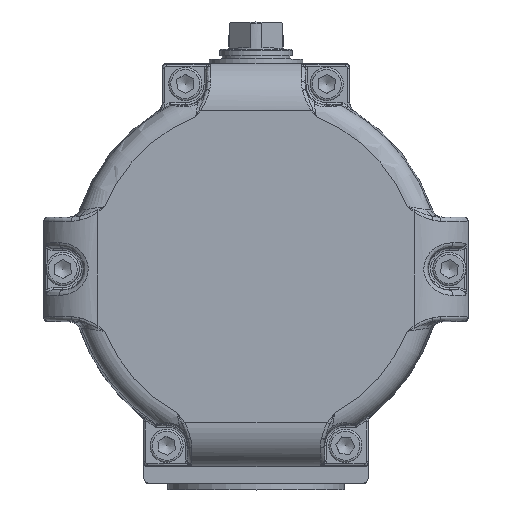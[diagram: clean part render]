
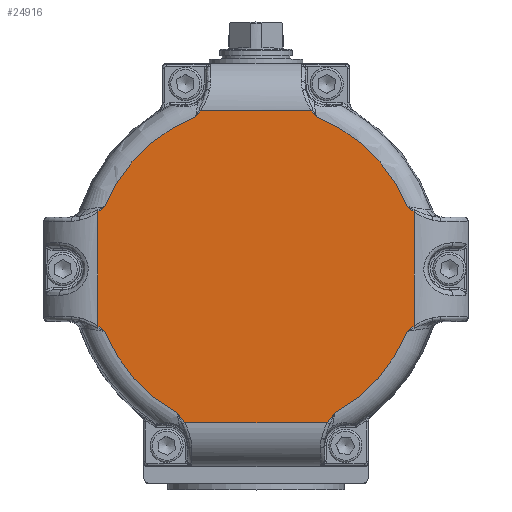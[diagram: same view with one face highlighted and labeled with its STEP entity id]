
A CAD part, top view. The second image highlights one B-rep face of the part: STEP entity #24916.
In plain terms, the highlighted planar face has unit normal (0, 0, 1).
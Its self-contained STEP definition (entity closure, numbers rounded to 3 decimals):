
#1398=B_SPLINE_CURVE_WITH_KNOTS('',3,(#44060,#44061,#44062,#44063,#44064,
#44065),.UNSPECIFIED.,.F.,.F.,(4,2,4),(0.,0.615,0.617),
 .UNSPECIFIED.);
#1399=B_SPLINE_CURVE_WITH_KNOTS('',3,(#44067,#44068,#44069,#44070,#44071,
#44072),.UNSPECIFIED.,.F.,.F.,(4,2,4),(-0.002,0.,0.615),
 .UNSPECIFIED.);
#1400=B_SPLINE_CURVE_WITH_KNOTS('',3,(#44075,#44076,#44077,#44078,#44079,
#44080),.UNSPECIFIED.,.F.,.F.,(4,2,4),(0.,0.403,0.405),
 .UNSPECIFIED.);
#1401=B_SPLINE_CURVE_WITH_KNOTS('',3,(#44081,#44082,#44083,#44084,#44085,
#44086),.UNSPECIFIED.,.F.,.F.,(4,2,4),(-0.002,0.,0.403),
 .UNSPECIFIED.);
#1402=B_SPLINE_CURVE_WITH_KNOTS('',3,(#44087,#44088,#44089,#44090,#44091,
#44092),.UNSPECIFIED.,.F.,.F.,(4,2,4),(0.,0.353,0.355),
 .UNSPECIFIED.);
#1403=B_SPLINE_CURVE_WITH_KNOTS('',3,(#44093,#44094,#44095,#44096,#44097,
#44098),.UNSPECIFIED.,.F.,.F.,(4,2,4),(-0.002,0.,0.353),
 .UNSPECIFIED.);
#1404=B_SPLINE_CURVE_WITH_KNOTS('',3,(#44101,#44102,#44103,#44104,#44105,
#44106),.UNSPECIFIED.,.F.,.F.,(4,2,4),(0.,0.403,0.405),
 .UNSPECIFIED.);
#1405=B_SPLINE_CURVE_WITH_KNOTS('',3,(#44107,#44108,#44109,#44110,#44111,
#44112),.UNSPECIFIED.,.F.,.F.,(4,2,4),(-0.002,0.,0.403),
 .UNSPECIFIED.);
#2459=LINE('',#36159,#3333);
#2468=LINE('',#37110,#3342);
#2475=LINE('',#37751,#3349);
#2482=LINE('',#38437,#3356);
#3333=VECTOR('',#28802,10.);
#3342=VECTOR('',#28919,10.);
#3349=VECTOR('',#28992,10.);
#3356=VECTOR('',#29067,10.);
#4938=FACE_OUTER_BOUND('',#6460,.T.);
#6460=EDGE_LOOP('',(#16881,#16882,#16883,#16884,#16885,#16886,#16887,#16888,
#16889,#16890,#16891,#16892,#16893,#16894,#16895,#16896));
#7752=CIRCLE('',#26201,78.776);
#7792=CIRCLE('',#26255,78.776);
#8013=CIRCLE('',#26637,78.776);
#8014=CIRCLE('',#26638,78.776);
#9181=VERTEX_POINT('',#36152);
#9182=VERTEX_POINT('',#36158);
#9193=VERTEX_POINT('',#36255);
#9217=VERTEX_POINT('',#36666);
#9218=VERTEX_POINT('',#36672);
#9243=VERTEX_POINT('',#37102);
#9244=VERTEX_POINT('',#37109);
#9255=VERTEX_POINT('',#37213);
#9279=VERTEX_POINT('',#37618);
#9280=VERTEX_POINT('',#37623);
#9284=VERTEX_POINT('',#37743);
#9286=VERTEX_POINT('',#37750);
#9313=VERTEX_POINT('',#38409);
#9319=VERTEX_POINT('',#38431);
#9598=VERTEX_POINT('',#44073);
#9599=VERTEX_POINT('',#44099);
#11540=EDGE_CURVE('',#9182,#9181,#2459,.T.);
#11598=EDGE_CURVE('',#9217,#9218,#7752,.T.);
#11642=EDGE_CURVE('',#9243,#9244,#2468,.F.);
#11700=EDGE_CURVE('',#9279,#9280,#7792,.T.);
#11708=EDGE_CURVE('',#9286,#9284,#2475,.T.);
#11768=EDGE_CURVE('',#9319,#9313,#2482,.T.);
#12286=EDGE_CURVE('',#9182,#9217,#1398,.T.);
#12287=EDGE_CURVE('',#9193,#9181,#1399,.T.);
#12288=EDGE_CURVE('',#9598,#9193,#8013,.T.);
#12289=EDGE_CURVE('',#9286,#9598,#1400,.T.);
#12290=EDGE_CURVE('',#9280,#9284,#1401,.T.);
#12291=EDGE_CURVE('',#9244,#9279,#1402,.T.);
#12292=EDGE_CURVE('',#9255,#9243,#1403,.T.);
#12293=EDGE_CURVE('',#9599,#9255,#8014,.T.);
#12294=EDGE_CURVE('',#9313,#9599,#1404,.T.);
#12295=EDGE_CURVE('',#9218,#9319,#1405,.T.);
#16881=ORIENTED_EDGE('',*,*,#12286,.F.);
#16882=ORIENTED_EDGE('',*,*,#11540,.T.);
#16883=ORIENTED_EDGE('',*,*,#12287,.F.);
#16884=ORIENTED_EDGE('',*,*,#12288,.F.);
#16885=ORIENTED_EDGE('',*,*,#12289,.F.);
#16886=ORIENTED_EDGE('',*,*,#11708,.T.);
#16887=ORIENTED_EDGE('',*,*,#12290,.F.);
#16888=ORIENTED_EDGE('',*,*,#11700,.F.);
#16889=ORIENTED_EDGE('',*,*,#12291,.F.);
#16890=ORIENTED_EDGE('',*,*,#11642,.F.);
#16891=ORIENTED_EDGE('',*,*,#12292,.F.);
#16892=ORIENTED_EDGE('',*,*,#12293,.F.);
#16893=ORIENTED_EDGE('',*,*,#12294,.F.);
#16894=ORIENTED_EDGE('',*,*,#11768,.F.);
#16895=ORIENTED_EDGE('',*,*,#12295,.F.);
#16896=ORIENTED_EDGE('',*,*,#11598,.F.);
#22781=PLANE('',#26636);
#24916=ADVANCED_FACE('',(#4938),#22781,.T.);
#26201=AXIS2_PLACEMENT_3D('',#36673,#28871,#28872);
#26255=AXIS2_PLACEMENT_3D('',#37624,#28988,#28989);
#26636=AXIS2_PLACEMENT_3D('',#44066,#29833,#29834);
#26637=AXIS2_PLACEMENT_3D('',#44074,#29835,#29836);
#26638=AXIS2_PLACEMENT_3D('',#44100,#29837,#29838);
#28802=DIRECTION('',(1.,0.,0.));
#28871=DIRECTION('center_axis',(0.,0.,
-1.));
#28872=DIRECTION('ref_axis',(1.,0.,0.));
#28919=DIRECTION('',(-1.,0.,0.));
#28988=DIRECTION('center_axis',(0.,0.,
-1.));
#28989=DIRECTION('ref_axis',(1.,0.,0.));
#28992=DIRECTION('',(0.,1.,0.));
#29067=DIRECTION('',(0.,1.,0.));
#29833=DIRECTION('center_axis',(0.,0.,
1.));
#29834=DIRECTION('ref_axis',(0.,1.,0.));
#29835=DIRECTION('center_axis',(0.,0.,
-1.));
#29836=DIRECTION('ref_axis',(1.,0.,0.));
#29837=DIRECTION('center_axis',(0.,0.,
-1.));
#29838=DIRECTION('ref_axis',(1.,0.,0.));
#36152=CARTESIAN_POINT('',(34.386,-74.,129.6));
#36158=CARTESIAN_POINT('',(-34.386,-74.,129.6));
#36159=CARTESIAN_POINT('',(0.,-74.,129.6));
#36255=CARTESIAN_POINT('',(38.,-69.005,129.6));
#36666=CARTESIAN_POINT('',(-38.,-69.005,129.6));
#36672=CARTESIAN_POINT('',(-72.84,-30.,129.6));
#36673=CARTESIAN_POINT('Origin',(0.,0.,
129.6));
#37102=CARTESIAN_POINT('',(-26.764,76.,129.6));
#37109=CARTESIAN_POINT('',(26.764,76.,129.6));
#37110=CARTESIAN_POINT('',(0.,76.,129.6));
#37213=CARTESIAN_POINT('',(-29.,73.244,129.6));
#37618=CARTESIAN_POINT('',(29.,73.244,129.6));
#37623=CARTESIAN_POINT('',(72.84,30.,129.6));
#37624=CARTESIAN_POINT('Origin',(0.,0.,
129.6));
#37743=CARTESIAN_POINT('',(76.,27.471,129.6));
#37750=CARTESIAN_POINT('',(76.,-27.471,129.6));
#37751=CARTESIAN_POINT('',(76.,0.,129.6));
#38409=CARTESIAN_POINT('',(-76.,27.471,129.6));
#38431=CARTESIAN_POINT('',(-76.,-27.471,129.6));
#38437=CARTESIAN_POINT('',(-76.,0.,129.6));
#44060=CARTESIAN_POINT('Ctrl Pts',(-34.386,-74.,129.6));
#44061=CARTESIAN_POINT('Ctrl Pts',(-35.514,-72.29,
129.6));
#44062=CARTESIAN_POINT('Ctrl Pts',(-36.764,-70.662,
129.6));
#44063=CARTESIAN_POINT('Ctrl Pts',(-37.993,-69.015,
129.6));
#44064=CARTESIAN_POINT('Ctrl Pts',(-37.996,-69.01,
129.6));
#44065=CARTESIAN_POINT('Ctrl Pts',(-38.,-69.005,
129.6));
#44066=CARTESIAN_POINT('Origin',(39.388,0.,
129.6));
#44067=CARTESIAN_POINT('Ctrl Pts',(38.,-69.005,129.6));
#44068=CARTESIAN_POINT('Ctrl Pts',(37.996,-69.01,129.6));
#44069=CARTESIAN_POINT('Ctrl Pts',(37.993,-69.015,129.6));
#44070=CARTESIAN_POINT('Ctrl Pts',(36.764,-70.662,129.6));
#44071=CARTESIAN_POINT('Ctrl Pts',(35.514,-72.29,129.6));
#44072=CARTESIAN_POINT('Ctrl Pts',(34.386,-74.,129.6));
#44073=CARTESIAN_POINT('',(72.84,-30.,129.6));
#44074=CARTESIAN_POINT('Origin',(0.,0.,
129.6));
#44075=CARTESIAN_POINT('Ctrl Pts',(76.,-27.471,129.6));
#44076=CARTESIAN_POINT('Ctrl Pts',(74.933,-28.287,129.6));
#44077=CARTESIAN_POINT('Ctrl Pts',(73.895,-29.141,129.6));
#44078=CARTESIAN_POINT('Ctrl Pts',(72.849,-29.993,129.6));
#44079=CARTESIAN_POINT('Ctrl Pts',(72.845,-29.996,129.6));
#44080=CARTESIAN_POINT('Ctrl Pts',(72.84,-30.,129.6));
#44081=CARTESIAN_POINT('Ctrl Pts',(72.84,30.,129.6));
#44082=CARTESIAN_POINT('Ctrl Pts',(72.845,29.996,129.6));
#44083=CARTESIAN_POINT('Ctrl Pts',(72.849,29.993,129.6));
#44084=CARTESIAN_POINT('Ctrl Pts',(73.895,29.141,129.6));
#44085=CARTESIAN_POINT('Ctrl Pts',(74.933,28.287,129.6));
#44086=CARTESIAN_POINT('Ctrl Pts',(76.,27.471,129.6));
#44087=CARTESIAN_POINT('Ctrl Pts',(26.764,76.,129.6));
#44088=CARTESIAN_POINT('Ctrl Pts',(27.49,75.074,129.6));
#44089=CARTESIAN_POINT('Ctrl Pts',(28.241,74.167,129.6));
#44090=CARTESIAN_POINT('Ctrl Pts',(28.992,73.254,129.6));
#44091=CARTESIAN_POINT('Ctrl Pts',(28.996,73.249,129.6));
#44092=CARTESIAN_POINT('Ctrl Pts',(29.,73.244,129.6));
#44093=CARTESIAN_POINT('Ctrl Pts',(-29.,73.244,129.6));
#44094=CARTESIAN_POINT('Ctrl Pts',(-28.996,73.249,129.6));
#44095=CARTESIAN_POINT('Ctrl Pts',(-28.992,73.254,129.6));
#44096=CARTESIAN_POINT('Ctrl Pts',(-28.241,74.167,129.6));
#44097=CARTESIAN_POINT('Ctrl Pts',(-27.49,75.074,129.6));
#44098=CARTESIAN_POINT('Ctrl Pts',(-26.764,76.,129.6));
#44099=CARTESIAN_POINT('',(-72.84,30.,129.6));
#44100=CARTESIAN_POINT('Origin',(0.,0.,
129.6));
#44101=CARTESIAN_POINT('Ctrl Pts',(-76.,27.471,129.6));
#44102=CARTESIAN_POINT('Ctrl Pts',(-74.933,28.287,129.6));
#44103=CARTESIAN_POINT('Ctrl Pts',(-73.895,29.141,129.6));
#44104=CARTESIAN_POINT('Ctrl Pts',(-72.849,29.993,129.6));
#44105=CARTESIAN_POINT('Ctrl Pts',(-72.845,29.996,129.6));
#44106=CARTESIAN_POINT('Ctrl Pts',(-72.84,30.,129.6));
#44107=CARTESIAN_POINT('Ctrl Pts',(-72.84,-30.,
129.6));
#44108=CARTESIAN_POINT('Ctrl Pts',(-72.845,-29.996,
129.6));
#44109=CARTESIAN_POINT('Ctrl Pts',(-72.849,-29.993,
129.6));
#44110=CARTESIAN_POINT('Ctrl Pts',(-73.895,-29.141,129.6));
#44111=CARTESIAN_POINT('Ctrl Pts',(-74.933,-28.287,
129.6));
#44112=CARTESIAN_POINT('Ctrl Pts',(-76.,-27.471,
129.6));
